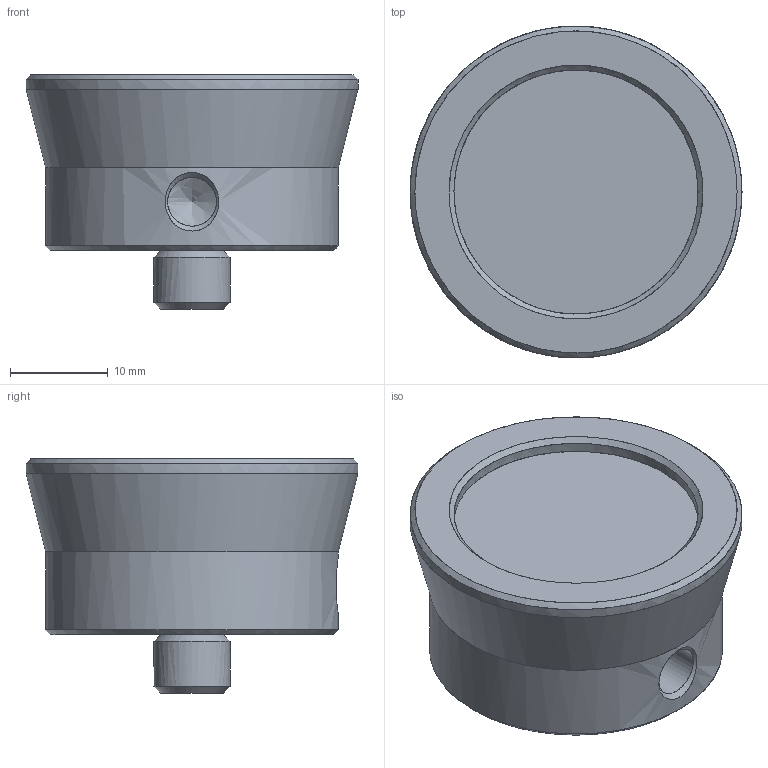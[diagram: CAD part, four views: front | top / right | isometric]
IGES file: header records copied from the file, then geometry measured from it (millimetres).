
Global section: file name: Y:\Transfer folder - cleared every Monday\DA\LA-9908-0760-01-B  XL UNIVERSAL BASE ADAPTOR\A-9908-0760-01-B  XL UNIVERSAL BASE ADAPTOR.igs; native system: NX V7.5; preprocessor: SIEMENS PLM Software NX 7.5; date: 20160226.110547; units: millimetre
Bounding box: 34 x 33.97 x 24 mm (x, y, z)
Surface area: 3766.8 mm2 (no closed solid volume)
Topology: 0 solids, 0 shells, 20 faces, 174 edges, 156 vertices
Faces by surface type: bspline 20
